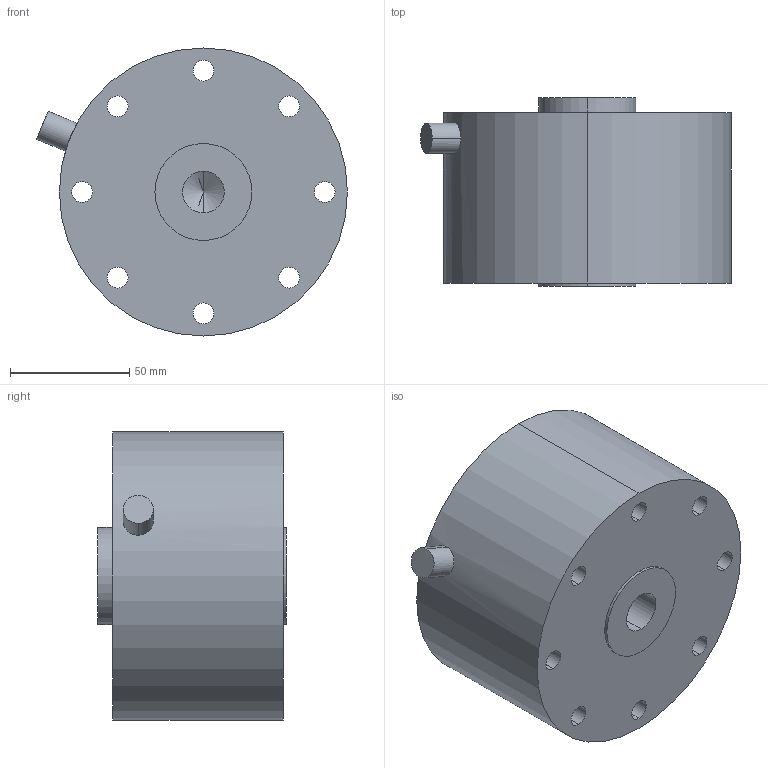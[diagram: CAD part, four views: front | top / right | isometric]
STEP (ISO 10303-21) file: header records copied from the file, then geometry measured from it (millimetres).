
FILE_DESCRIPTION (( 'STEP AP203' ), '1' );
FILE_NAME ('RAL1_50KS_S.STEP', '2020-04-04T14:10:59', ( '' ), ( '' ), 'SwSTEP 2.0', 'SolidWorks 2016', '' );
FILE_SCHEMA (( 'CONFIG_CONTROL_DESIGN' ));
Length unit declared in the file: inch
Products named in the file (1): RAL1_50KS_S
Bounding box: 130.22 x 78.99 x 120.65 mm (x, y, z)
Volume: 768498.5 mm3; surface area: 70892.5 mm2
Topology: 1 solids, 1 shells, 64 faces, 146 edges, 94 vertices
Faces by surface type: cylinder 46, plane 14, cone 4
Entity records: 2011 total; most frequent: CARTESIAN_POINT 385, DIRECTION 360, ORIENTED_EDGE 284, AXIS2_PLACEMENT_3D 155, EDGE_CURVE 142, VERTEX_POINT 94, EDGE_LOOP 94, CIRCLE 90
